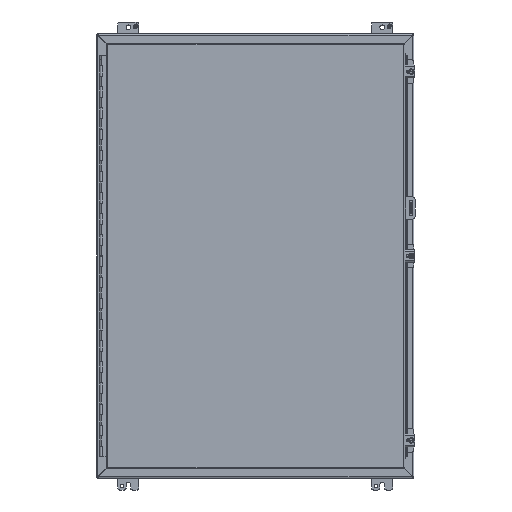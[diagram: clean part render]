
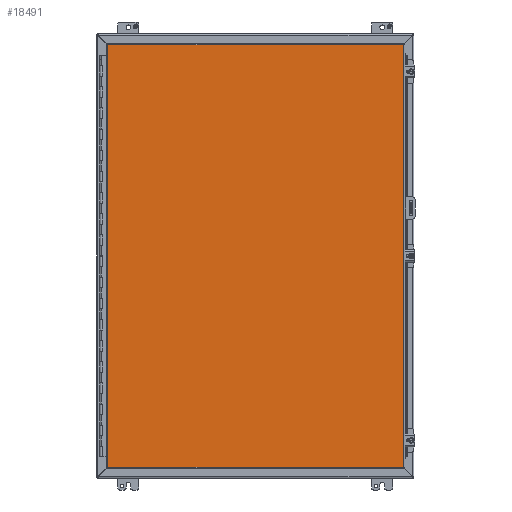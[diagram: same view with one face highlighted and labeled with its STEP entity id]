
A CAD part, front view. The second image highlights one B-rep face of the part: STEP entity #18491.
In plain terms, the highlighted planar face has unit normal (0, -1, 0).
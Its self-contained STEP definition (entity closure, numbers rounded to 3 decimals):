
#1138=LINE('',#26882,#2904);
#1139=LINE('',#26885,#2905);
#1140=LINE('',#26887,#2906);
#1141=LINE('',#26889,#2907);
#2904=VECTOR('',#21774,1000.);
#2905=VECTOR('',#21775,1000.);
#2906=VECTOR('',#21776,1000.);
#2907=VECTOR('',#21777,1000.);
#5702=ORIENTED_EDGE('',*,*,#10730,.T.);
#5703=ORIENTED_EDGE('',*,*,#10731,.T.);
#5704=ORIENTED_EDGE('',*,*,#10732,.T.);
#5705=ORIENTED_EDGE('',*,*,#10733,.T.);
#10730=EDGE_CURVE('',#13305,#13306,#1138,.T.);
#10731=EDGE_CURVE('',#13306,#13307,#1139,.T.);
#10732=EDGE_CURVE('',#13307,#13308,#1140,.T.);
#10733=EDGE_CURVE('',#13308,#13305,#1141,.T.);
#13305=VERTEX_POINT('',#26883);
#13306=VERTEX_POINT('',#26884);
#13307=VERTEX_POINT('',#26886);
#13308=VERTEX_POINT('',#26888);
#15549=EDGE_LOOP('',(#5702,#5703,#5704,#5705));
#16701=FACE_BOUND('',#15549,.T.);
#17767=PLANE('',#19749);
#18491=ADVANCED_FACE('',(#16701),#17767,.T.);
#19749=AXIS2_PLACEMENT_3D('',#26881,#21772,#21773);
#21772=DIRECTION('',(0.,-1.,0.));
#21773=DIRECTION('',(0.,0.,-1.));
#21774=DIRECTION('',(0.,0.,-1.));
#21775=DIRECTION('',(1.,0.,0.));
#21776=DIRECTION('',(0.,0.,1.));
#21777=DIRECTION('',(-1.,0.,0.));
#26881=CARTESIAN_POINT('',(-355.244,0.,-507.86));
#26882=CARTESIAN_POINT('',(-355.244,0.,507.86));
#26883=CARTESIAN_POINT('',(-355.244,0.,507.86));
#26884=CARTESIAN_POINT('',(-355.244,0.,-507.86));
#26885=CARTESIAN_POINT('',(-355.244,0.,-507.86));
#26886=CARTESIAN_POINT('',(355.244,0.,-507.86));
#26887=CARTESIAN_POINT('',(355.244,0.,-507.86));
#26888=CARTESIAN_POINT('',(355.244,0.,507.86));
#26889=CARTESIAN_POINT('',(355.244,0.,507.86));
